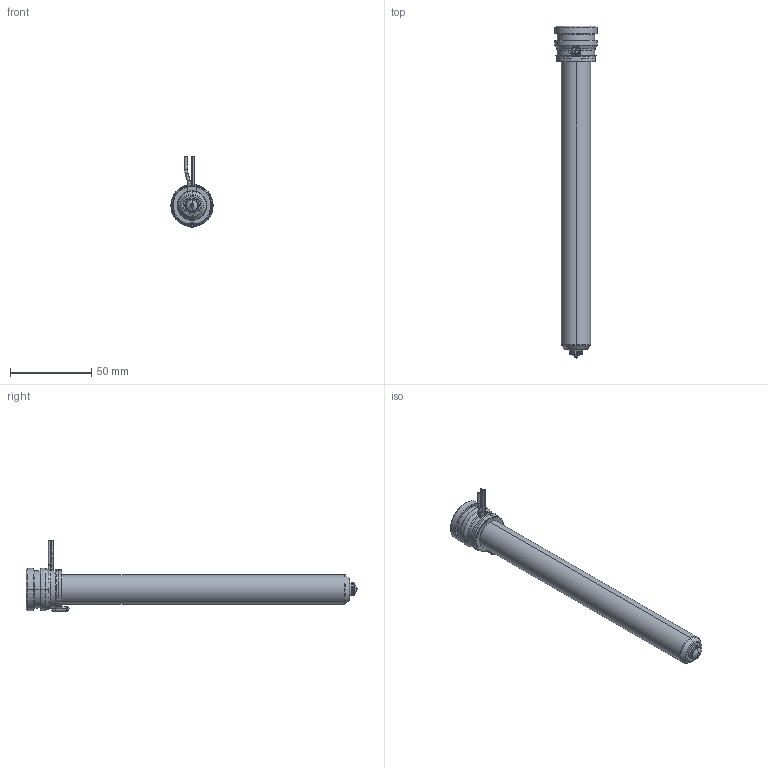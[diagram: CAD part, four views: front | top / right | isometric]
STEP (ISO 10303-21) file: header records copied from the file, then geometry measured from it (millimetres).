
FILE_DESCRIPTION((''),'2;1');
FILE_NAME('MPN-08-24-TS8-186-A','2026-02-05T11:53:43',('UPTIO'),('Thermoplay S.p.A.'),'CREO PARAMETRIC BY PTC INC, 2023494','CREO PARAMETRIC BY PTC INC, 2023494','');
FILE_SCHEMA(('CONFIG_CONTROL_DESIGN','SHAPE_APPEARANCE_LAYERS_GROUPS'));
Length unit declared in the file: millimetre
Products named in the file (1): MPN-08-24-TS8-186-A
Bounding box: 26 x 204 x 43.5 mm (x, y, z)
Volume: 38021.8 mm3; surface area: 49887.5 mm2
Topology: 2 solids, 5 shells, 548 faces, 1437 edges, 892 vertices
Faces by surface type: cylinder 178, plane 146, bspline 82, torus 64, cone 60, sphere 12, extrusion 6
Entity records: 29740 total; most frequent: CARTESIAN_POINT 13567, ORIENTED_EDGE 2854, DIRECTION 2539, EDGE_CURVE 1427, AXIS2_PLACEMENT_3D 992, VERTEX_POINT 892, EDGE_LOOP 575, VECTOR 555
